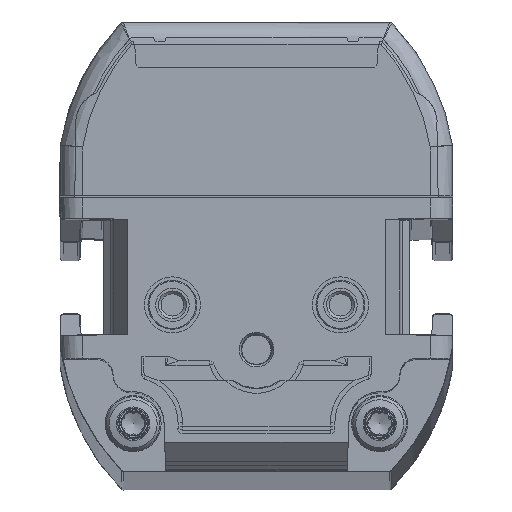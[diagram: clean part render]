
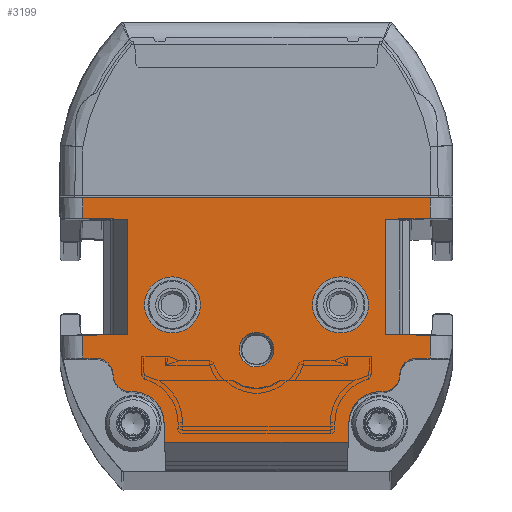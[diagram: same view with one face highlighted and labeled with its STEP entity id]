
A CAD part, top view. The second image highlights one B-rep face of the part: STEP entity #3199.
In plain terms, the highlighted planar face has unit normal (0, 0, 1).
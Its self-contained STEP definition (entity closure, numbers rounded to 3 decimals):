
#1297=FACE_BOUND('',#5329,.T.);
#1298=FACE_BOUND('',#5330,.T.);
#1299=FACE_BOUND('',#5331,.T.);
#1300=FACE_BOUND('',#5332,.T.);
#1824=CIRCLE('',#16890,1.5);
#1825=CIRCLE('',#16892,1.5);
#1826=CIRCLE('',#16895,2.75);
#1841=CIRCLE('',#16962,1.5);
#1842=CIRCLE('',#16964,1.5);
#1844=CIRCLE('',#16974,2.75);
#1845=CIRCLE('',#16982,2.5);
#1846=CIRCLE('',#16983,2.5);
#1847=CIRCLE('',#16984,1.55);
#3199=ADVANCED_FACE('',(#1297,#1298,#1299,#1300),#3772,.T.);
#3772=PLANE('',#16985);
#5329=EDGE_LOOP('',(#8247,#8248,#8249,#8250,#8251,#8252,#8253,#8254,#8255,
#8256,#8257,#8258,#8259,#8260,#8261,#8262,#8263,#8264,#8265,#8266,#8267,
#8268,#8269,#8270,#8271,#8272));
#5330=EDGE_LOOP('',(#8273));
#5331=EDGE_LOOP('',(#8274));
#5332=EDGE_LOOP('',(#8275));
#8247=ORIENTED_EDGE('',*,*,#12813,.F.);
#8248=ORIENTED_EDGE('',*,*,#12812,.T.);
#8249=ORIENTED_EDGE('',*,*,#12809,.T.);
#8250=ORIENTED_EDGE('',*,*,#12804,.T.);
#8251=ORIENTED_EDGE('',*,*,#12998,.T.);
#8252=ORIENTED_EDGE('',*,*,#12999,.T.);
#8253=ORIENTED_EDGE('',*,*,#13000,.T.);
#8254=ORIENTED_EDGE('',*,*,#13001,.T.);
#8255=ORIENTED_EDGE('',*,*,#13002,.T.);
#8256=ORIENTED_EDGE('',*,*,#12929,.F.);
#8257=ORIENTED_EDGE('',*,*,#12940,.F.);
#8258=ORIENTED_EDGE('',*,*,#12925,.F.);
#8259=ORIENTED_EDGE('',*,*,#13003,.T.);
#8260=ORIENTED_EDGE('',*,*,#13004,.F.);
#8261=ORIENTED_EDGE('',*,*,#13005,.T.);
#8262=ORIENTED_EDGE('',*,*,#13006,.F.);
#8263=ORIENTED_EDGE('',*,*,#13007,.T.);
#8264=ORIENTED_EDGE('',*,*,#12966,.F.);
#8265=ORIENTED_EDGE('',*,*,#12964,.T.);
#8266=ORIENTED_EDGE('',*,*,#12963,.T.);
#8267=ORIENTED_EDGE('',*,*,#12959,.F.);
#8268=ORIENTED_EDGE('',*,*,#12983,.F.);
#8269=ORIENTED_EDGE('',*,*,#12978,.F.);
#8270=ORIENTED_EDGE('',*,*,#13008,.T.);
#8271=ORIENTED_EDGE('',*,*,#12823,.F.);
#8272=ORIENTED_EDGE('',*,*,#12816,.F.);
#8273=ORIENTED_EDGE('',*,*,#13009,.F.);
#8274=ORIENTED_EDGE('',*,*,#13010,.F.);
#8275=ORIENTED_EDGE('',*,*,#13011,.T.);
#10962=VERTEX_POINT('',#30975);
#10963=VERTEX_POINT('',#30976);
#10966=VERTEX_POINT('',#30993);
#10967=VERTEX_POINT('',#30997);
#10968=VERTEX_POINT('',#31001);
#10969=VERTEX_POINT('',#31005);
#10976=VERTEX_POINT('',#31021);
#11060=VERTEX_POINT('',#31290);
#11064=VERTEX_POINT('',#31298);
#11067=VERTEX_POINT('',#31306);
#11068=VERTEX_POINT('',#31308);
#11086=VERTEX_POINT('',#31543);
#11087=VERTEX_POINT('',#31544);
#11088=VERTEX_POINT('',#31549);
#11089=VERTEX_POINT('',#31553);
#11090=VERTEX_POINT('',#31557);
#11099=VERTEX_POINT('',#31772);
#11100=VERTEX_POINT('',#31774);
#11111=VERTEX_POINT('',#31813);
#11112=VERTEX_POINT('',#31815);
#11113=VERTEX_POINT('',#31817);
#11114=VERTEX_POINT('',#31819);
#11115=VERTEX_POINT('',#31822);
#11116=VERTEX_POINT('',#31824);
#11117=VERTEX_POINT('',#31826);
#11118=VERTEX_POINT('',#31828);
#11119=VERTEX_POINT('',#31832);
#11120=VERTEX_POINT('',#31834);
#11121=VERTEX_POINT('',#31836);
#12804=EDGE_CURVE('',#10962,#10963,#14477,.T.);
#12809=EDGE_CURVE('',#10966,#10962,#1824,.T.);
#12812=EDGE_CURVE('',#10967,#10966,#1825,.T.);
#12813=EDGE_CURVE('',#10967,#10968,#14481,.T.);
#12816=EDGE_CURVE('',#10968,#10969,#1826,.T.);
#12823=EDGE_CURVE('',#10969,#10976,#14487,.T.);
#12925=EDGE_CURVE('',#11064,#11060,#14555,.T.);
#12929=EDGE_CURVE('',#11067,#11068,#14559,.T.);
#12940=EDGE_CURVE('',#11060,#11067,#14566,.T.);
#12959=EDGE_CURVE('',#11086,#11087,#14575,.T.);
#12963=EDGE_CURVE('',#11088,#11087,#1841,.T.);
#12964=EDGE_CURVE('',#11089,#11088,#1842,.T.);
#12966=EDGE_CURVE('',#11089,#11090,#14580,.T.);
#12978=EDGE_CURVE('',#11099,#11100,#14584,.T.);
#12983=EDGE_CURVE('',#11100,#11086,#1844,.T.);
#12998=EDGE_CURVE('',#10963,#11111,#14601,.T.);
#12999=EDGE_CURVE('',#11111,#11112,#14602,.T.);
#13000=EDGE_CURVE('',#11112,#11113,#14603,.T.);
#13001=EDGE_CURVE('',#11113,#11114,#14604,.T.);
#13002=EDGE_CURVE('',#11114,#11068,#14605,.T.);
#13003=EDGE_CURVE('',#11064,#11115,#14606,.T.);
#13004=EDGE_CURVE('',#11116,#11115,#14607,.T.);
#13005=EDGE_CURVE('',#11116,#11117,#14608,.T.);
#13006=EDGE_CURVE('',#11118,#11117,#14609,.T.);
#13007=EDGE_CURVE('',#11118,#11090,#14610,.T.);
#13008=EDGE_CURVE('',#11099,#10976,#14611,.T.);
#13009=EDGE_CURVE('',#11119,#11119,#1845,.T.);
#13010=EDGE_CURVE('',#11120,#11120,#1846,.T.);
#13011=EDGE_CURVE('',#11121,#11121,#1847,.T.);
#14477=LINE('',#30974,#15652);
#14481=LINE('',#31000,#15656);
#14487=LINE('',#31020,#15662);
#14555=LINE('',#31299,#15730);
#14559=LINE('',#31307,#15734);
#14566=LINE('',#31328,#15741);
#14575=LINE('',#31542,#15750);
#14580=LINE('',#31556,#15755);
#14584=LINE('',#31773,#15759);
#14601=LINE('',#31812,#15776);
#14602=LINE('',#31814,#15777);
#14603=LINE('',#31816,#15778);
#14604=LINE('',#31818,#15779);
#14605=LINE('',#31820,#15780);
#14606=LINE('',#31821,#15781);
#14607=LINE('',#31823,#15782);
#14608=LINE('',#31825,#15783);
#14609=LINE('',#31827,#15784);
#14610=LINE('',#31829,#15785);
#14611=LINE('',#31830,#15786);
#15652=VECTOR('',#19448,1.);
#15656=VECTOR('',#19464,1.);
#15662=VECTOR('',#19482,1.);
#15730=VECTOR('',#19630,1.);
#15734=VECTOR('',#19636,1.);
#15741=VECTOR('',#19659,1.);
#15750=VECTOR('',#19692,1.);
#15755=VECTOR('',#19707,1.);
#15759=VECTOR('',#19721,1.);
#15776=VECTOR('',#19760,1.);
#15777=VECTOR('',#19761,1.);
#15778=VECTOR('',#19762,1.);
#15779=VECTOR('',#19763,1.);
#15780=VECTOR('',#19764,1.);
#15781=VECTOR('',#19765,1.);
#15782=VECTOR('',#19766,1.);
#15783=VECTOR('',#19767,1.);
#15784=VECTOR('',#19768,1.);
#15785=VECTOR('',#19769,1.);
#15786=VECTOR('',#19770,1.);
#16890=AXIS2_PLACEMENT_3D('',#30992,#19454,#19455);
#16892=AXIS2_PLACEMENT_3D('',#30998,#19460,#19461);
#16895=AXIS2_PLACEMENT_3D('',#31006,#19469,#19470);
#16962=AXIS2_PLACEMENT_3D('',#31550,#19698,#19699);
#16964=AXIS2_PLACEMENT_3D('',#31552,#19702,#19703);
#16974=AXIS2_PLACEMENT_3D('',#31782,#19730,#19731);
#16982=AXIS2_PLACEMENT_3D('',#31831,#19771,#19772);
#16983=AXIS2_PLACEMENT_3D('',#31833,#19773,#19774);
#16984=AXIS2_PLACEMENT_3D('',#31835,#19775,#19776);
#16985=AXIS2_PLACEMENT_3D('',#31837,#19777,#19778);
#19448=DIRECTION('',(1.,0.,0.));
#19454=DIRECTION('',(0.,0.,-1.));
#19455=DIRECTION('',(1.,0.,0.));
#19460=DIRECTION('',(0.,0.,1.));
#19461=DIRECTION('',(1.,0.,0.));
#19464=DIRECTION('',(-1.,0.,0.));
#19469=DIRECTION('',(0.,0.,1.));
#19470=DIRECTION('',(1.,0.,0.));
#19482=DIRECTION('',(-0.035,-0.999,0.));
#19630=DIRECTION('',(1.,0.017,0.));
#19636=DIRECTION('',(1.,-0.017,0.));
#19659=DIRECTION('',(1.,0.,0.));
#19692=DIRECTION('',(-1.,0.,0.));
#19698=DIRECTION('',(0.,0.,1.));
#19699=DIRECTION('',(1.,0.,0.));
#19702=DIRECTION('',(0.,0.,-1.));
#19703=DIRECTION('',(1.,0.,0.));
#19707=DIRECTION('',(-1.,0.,0.));
#19721=DIRECTION('',(-0.035,0.999,0.));
#19730=DIRECTION('',(0.,0.,1.));
#19731=DIRECTION('',(1.,0.,0.));
#19760=DIRECTION('',(0.,1.,0.));
#19761=DIRECTION('',(-1.,0.017,0.));
#19762=DIRECTION('',(0.,1.,0.));
#19763=DIRECTION('',(1.,0.017,0.));
#19764=DIRECTION('',(0.,1.,0.));
#19765=DIRECTION('',(0.,-1.,0.));
#19766=DIRECTION('',(-1.,0.017,0.));
#19767=DIRECTION('',(0.,-1.,0.));
#19768=DIRECTION('',(1.,0.017,0.));
#19769=DIRECTION('',(0.,-1.,0.));
#19770=DIRECTION('',(1.,0.,0.));
#19771=DIRECTION('',(0.,0.,1.));
#19772=DIRECTION('',(1.,0.,0.));
#19773=DIRECTION('',(0.,0.,1.));
#19774=DIRECTION('',(1.,0.,0.));
#19775=DIRECTION('',(0.,0.,-1.));
#19776=DIRECTION('',(1.,0.,0.));
#19777=DIRECTION('',(0.,0.,1.));
#19778=DIRECTION('',(1.,0.,0.));
#30974=CARTESIAN_POINT('',(-17.5,10.,1014.));
#30975=CARTESIAN_POINT('',(14.3,10.,1014.));
#30976=CARTESIAN_POINT('',(15.5,10.,1014.));
#30992=CARTESIAN_POINT('',(14.3,8.5,1014.));
#30993=CARTESIAN_POINT('',(12.8,8.5,1014.));
#30997=CARTESIAN_POINT('',(11.3,7.,1014.));
#30998=CARTESIAN_POINT('',(11.3,8.5,1014.));
#31000=CARTESIAN_POINT('',(23.25,7.,1014.));
#31001=CARTESIAN_POINT('',(11.002,7.,1014.));
#31005=CARTESIAN_POINT('',(8.253,4.346,1014.));
#31006=CARTESIAN_POINT('',(11.002,4.25,1014.));
#31020=CARTESIAN_POINT('',(8.25,4.25,1014.));
#31021=CARTESIAN_POINT('',(8.189,2.5,1014.));
#31290=CARTESIAN_POINT('',(-13.025,24.36,1014.));
#31298=CARTESIAN_POINT('',(-15.5,24.317,1014.));
#31299=CARTESIAN_POINT('',(-17.924,24.275,1014.));
#31306=CARTESIAN_POINT('',(13.025,24.36,1014.));
#31307=CARTESIAN_POINT('',(-17.066,24.886,1014.));
#31308=CARTESIAN_POINT('',(15.5,24.317,1014.));
#31328=CARTESIAN_POINT('',(-17.5,24.36,1014.));
#31542=CARTESIAN_POINT('',(-11.,7.,1014.));
#31543=CARTESIAN_POINT('',(-11.002,7.,1014.));
#31544=CARTESIAN_POINT('',(-11.3,7.,1014.));
#31549=CARTESIAN_POINT('',(-12.8,8.5,1014.));
#31550=CARTESIAN_POINT('',(-11.3,8.5,1014.));
#31552=CARTESIAN_POINT('',(-14.3,8.5,1014.));
#31553=CARTESIAN_POINT('',(-14.3,10.,1014.));
#31556=CARTESIAN_POINT('',(-17.5,10.,1014.));
#31557=CARTESIAN_POINT('',(-15.5,10.,1014.));
#31772=CARTESIAN_POINT('',(-8.189,2.5,1014.));
#31773=CARTESIAN_POINT('',(-8.25,4.25,1014.));
#31774=CARTESIAN_POINT('',(-8.253,4.346,1014.));
#31782=CARTESIAN_POINT('',(-11.002,4.25,1014.));
#31812=CARTESIAN_POINT('',(15.5,0.,1014.));
#31813=CARTESIAN_POINT('',(15.5,12.038,1014.));
#31814=CARTESIAN_POINT('',(-17.28,12.61,1014.));
#31815=CARTESIAN_POINT('',(11.55,12.107,1014.));
#31816=CARTESIAN_POINT('',(11.55,0.,1014.));
#31817=CARTESIAN_POINT('',(11.55,22.393,1014.));
#31818=CARTESIAN_POINT('',(-17.882,21.88,1014.));
#31819=CARTESIAN_POINT('',(15.5,22.462,1014.));
#31820=CARTESIAN_POINT('',(15.5,0.,1014.));
#31821=CARTESIAN_POINT('',(-15.5,0.,1014.));
#31822=CARTESIAN_POINT('',(-15.5,22.462,1014.));
#31823=CARTESIAN_POINT('',(-17.107,22.49,1014.));
#31824=CARTESIAN_POINT('',(-11.55,22.393,1014.));
#31825=CARTESIAN_POINT('',(-11.55,0.,1014.));
#31826=CARTESIAN_POINT('',(-11.55,12.107,1014.));
#31827=CARTESIAN_POINT('',(-17.709,11.999,1014.));
#31828=CARTESIAN_POINT('',(-15.5,12.038,1014.));
#31829=CARTESIAN_POINT('',(-15.5,0.,1014.));
#31830=CARTESIAN_POINT('',(-17.5,2.5,1014.));
#31831=CARTESIAN_POINT('',(-7.5,14.75,1014.));
#31832=CARTESIAN_POINT('',(-5.,14.75,1014.));
#31833=CARTESIAN_POINT('',(7.5,14.75,1014.));
#31834=CARTESIAN_POINT('',(10.,14.75,1014.));
#31835=CARTESIAN_POINT('',(0.,10.75,1014.));
#31836=CARTESIAN_POINT('',(1.55,10.75,1014.));
#31837=CARTESIAN_POINT('',(-17.5,0.,1014.));
